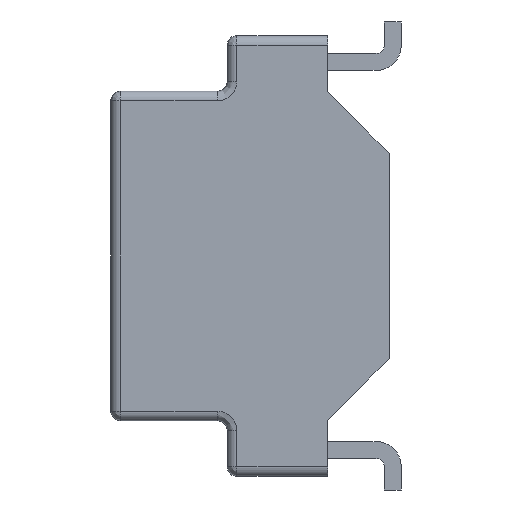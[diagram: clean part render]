
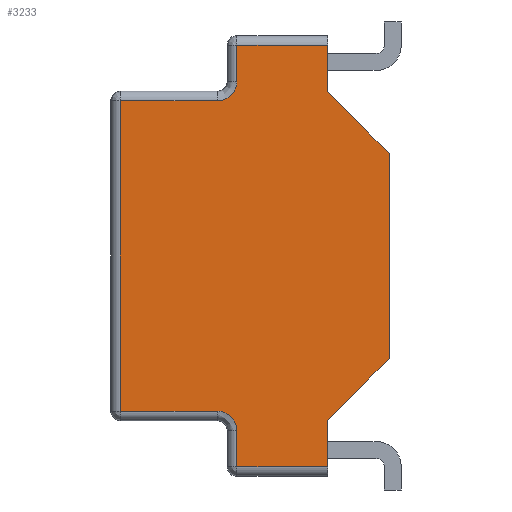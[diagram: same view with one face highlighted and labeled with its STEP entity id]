
A CAD part, left-side view. The second image highlights one B-rep face of the part: STEP entity #3233.
In plain terms, the highlighted planar face has unit normal (-1, 0, 0).
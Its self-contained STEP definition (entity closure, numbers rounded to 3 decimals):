
#59 = ORIENTED_EDGE ( 'NONE', *, *, #4075, .T. ) ;
#107 = CARTESIAN_POINT ( 'NONE',  ( -6.35, 4.191, 4.345 ) ) ;
#153 = EDGE_CURVE ( 'NONE', #388, #3910, #4993, .T. ) ;
#249 = CARTESIAN_POINT ( 'NONE',  ( -6.35, 4.191, 3.2 ) ) ;
#378 =( BOUNDED_CURVE ( )  B_SPLINE_CURVE ( 3, ( #6107, #5396, #505, #6788 ),
 .UNSPECIFIED., .F., .F. ) 
 B_SPLINE_CURVE_WITH_KNOTS ( ( 4, 4 ),
 ( 0., 1. ),
 .UNSPECIFIED. ) 
 CURVE ( )  GEOMETRIC_REPRESENTATION_ITEM ( )  RATIONAL_B_SPLINE_CURVE ( ( 1., 0.805, 0.805, 1. ) ) 
 REPRESENTATION_ITEM ( '' )  );
#388 = VERTEX_POINT ( 'NONE', #2047 ) ;
#455 = EDGE_LOOP ( 'NONE', ( #546, #1878, #5972, #3427, #4307, #6839, #6321, #5641, #4902, #6007, #2955, #3490, #59, #5668 ) ) ;
#505 = CARTESIAN_POINT ( 'NONE',  ( -6.35, 2.036, -3.2 ) ) ;
#546 = ORIENTED_EDGE ( 'NONE', *, *, #3004, .F. ) ;
#591 = CARTESIAN_POINT ( 'NONE',  ( -6.35, 4.191, 4.545 ) ) ;
#605 = LINE ( 'NONE', #249, #4073 ) ;
#718 = DIRECTION ( 'NONE',  ( 0., 0.707, 0.707 ) ) ;
#1027 = CARTESIAN_POINT ( 'NONE',  ( -6.35, -1.27, -2.12 ) ) ;
#1069 = VECTOR ( 'NONE', #3136, 1000. ) ;
#1268 = PLANE ( 'NONE',  #5425 ) ;
#1289 = LINE ( 'NONE', #2060, #8232 ) ;
#1298 = DIRECTION ( 'NONE',  ( 0., 0., -1. ) ) ;
#1324 = CARTESIAN_POINT ( 'NONE',  ( -6.35, 2.27, 3.2 ) ) ;
#1455 = LINE ( 'NONE', #7646, #8606 ) ;
#1590 = VECTOR ( 'NONE', #7663, 1000. ) ;
#1609 = LINE ( 'NONE', #6250, #5288 ) ;
#1750 = FACE_OUTER_BOUND ( 'NONE', #455, .T. ) ;
#1859 =( BOUNDED_CURVE ( )  B_SPLINE_CURVE ( 3, ( #1324, #6187, #6866, #2713 ),
 .UNSPECIFIED., .F., .T. ) 
 B_SPLINE_CURVE_WITH_KNOTS ( ( 4, 4 ),
 ( 0., 1. ),
 .UNSPECIFIED. ) 
 CURVE ( )  GEOMETRIC_REPRESENTATION_ITEM ( )  RATIONAL_B_SPLINE_CURVE ( ( 1., 0.805, 0.805, 1. ) ) 
 REPRESENTATION_ITEM ( '' )  );
#1878 = ORIENTED_EDGE ( 'NONE', *, *, #3780, .F. ) ;
#1934 = EDGE_CURVE ( 'NONE', #388, #3935, #7099, .T. ) ;
#2047 = CARTESIAN_POINT ( 'NONE',  ( -6.35, 0., -3.39 ) ) ;
#2060 = CARTESIAN_POINT ( 'NONE',  ( -6.35, 1.87, 4.545 ) ) ;
#2071 = CARTESIAN_POINT ( 'NONE',  ( -6.35, 0., 4.545 ) ) ;
#2079 = DIRECTION ( 'NONE',  ( 0., 0., 1. ) ) ;
#2178 = EDGE_CURVE ( 'NONE', #4408, #7985, #6586, .T. ) ;
#2182 = VERTEX_POINT ( 'NONE', #4608 ) ;
#2296 = DIRECTION ( 'NONE',  ( 0., 0., -1. ) ) ;
#2612 = VECTOR ( 'NONE', #6422, 1000. ) ;
#2713 = CARTESIAN_POINT ( 'NONE',  ( -6.35, 1.87, 3.6 ) ) ;
#2768 = DIRECTION ( 'NONE',  ( 0., 0., 1. ) ) ;
#2810 = DIRECTION ( 'NONE',  ( 0., 0., -1. ) ) ;
#2822 = CARTESIAN_POINT ( 'NONE',  ( -6.35, -1.39, 2. ) ) ;
#2955 = ORIENTED_EDGE ( 'NONE', *, *, #1934, .T. ) ;
#3004 = EDGE_CURVE ( 'NONE', #4459, #2182, #8142, .T. ) ;
#3136 = DIRECTION ( 'NONE',  ( 0., 1., 0. ) ) ;
#3221 = EDGE_CURVE ( 'NONE', #6276, #4408, #378, .T. ) ;
#3233 = ADVANCED_FACE ( 'NONE', ( #1750 ), #1268, .F. ) ;
#3241 = VERTEX_POINT ( 'NONE', #4750 ) ;
#3427 = ORIENTED_EDGE ( 'NONE', *, *, #4401, .F. ) ;
#3490 = ORIENTED_EDGE ( 'NONE', *, *, #5016, .F. ) ;
#3728 = CARTESIAN_POINT ( 'NONE',  ( -6.35, 2.27, -3.2 ) ) ;
#3733 = CARTESIAN_POINT ( 'NONE',  ( -6.35, 0., -4.345 ) ) ;
#3767 = CARTESIAN_POINT ( 'NONE',  ( -6.35, 0., 3.39 ) ) ;
#3780 = EDGE_CURVE ( 'NONE', #3241, #4459, #1609, .T. ) ;
#3910 = VERTEX_POINT ( 'NONE', #3733 ) ;
#3935 = VERTEX_POINT ( 'NONE', #1027 ) ;
#4073 = VECTOR ( 'NONE', #5860, 1000. ) ;
#4075 = EDGE_CURVE ( 'NONE', #4262, #6745, #6168, .T. ) ;
#4090 = DIRECTION ( 'NONE',  ( 0., 0., 1. ) ) ;
#4262 = VERTEX_POINT ( 'NONE', #8481 ) ;
#4307 = ORIENTED_EDGE ( 'NONE', *, *, #5927, .F. ) ;
#4308 = VECTOR ( 'NONE', #718, 1000. ) ;
#4324 = LINE ( 'NONE', #6602, #1069 ) ;
#4346 = VECTOR ( 'NONE', #2296, 1000. ) ;
#4401 = EDGE_CURVE ( 'NONE', #6858, #8997, #605, .T. ) ;
#4408 = VERTEX_POINT ( 'NONE', #3728 ) ;
#4459 = VERTEX_POINT ( 'NONE', #5191 ) ;
#4608 = CARTESIAN_POINT ( 'NONE',  ( -6.35, 0., 4.345 ) ) ;
#4721 = VECTOR ( 'NONE', #4782, 1000. ) ;
#4737 = VERTEX_POINT ( 'NONE', #6099 ) ;
#4750 = CARTESIAN_POINT ( 'NONE',  ( -6.35, 1.87, 3.6 ) ) ;
#4752 = LINE ( 'NONE', #4820, #8456 ) ;
#4782 = DIRECTION ( 'NONE',  ( 0., 1., 0. ) ) ;
#4792 = EDGE_CURVE ( 'NONE', #8997, #3241, #1859, .T. ) ;
#4820 = CARTESIAN_POINT ( 'NONE',  ( -6.35, 4.27, 4.545 ) ) ;
#4902 = ORIENTED_EDGE ( 'NONE', *, *, #5639, .F. ) ;
#4993 = LINE ( 'NONE', #8565, #4346 ) ;
#5016 = EDGE_CURVE ( 'NONE', #4262, #3935, #1455, .T. ) ;
#5191 = CARTESIAN_POINT ( 'NONE',  ( -6.35, 1.87, 4.345 ) ) ;
#5288 = VECTOR ( 'NONE', #2079, 1000. ) ;
#5396 = CARTESIAN_POINT ( 'NONE',  ( -6.35, 1.87, -3.366 ) ) ;
#5425 = AXIS2_PLACEMENT_3D ( 'NONE', #591, #5458, #1298 ) ;
#5458 = DIRECTION ( 'NONE',  ( 1., 0., 0. ) ) ;
#5576 = CARTESIAN_POINT ( 'NONE',  ( -6.35, 1.87, -3.6 ) ) ;
#5608 = DIRECTION ( 'NONE',  ( 0., 0., -1. ) ) ;
#5639 = EDGE_CURVE ( 'NONE', #3910, #4737, #4324, .T. ) ;
#5641 = ORIENTED_EDGE ( 'NONE', *, *, #5936, .F. ) ;
#5655 = CARTESIAN_POINT ( 'NONE',  ( -6.35, 2.27, 3.2 ) ) ;
#5668 = ORIENTED_EDGE ( 'NONE', *, *, #7152, .F. ) ;
#5860 = DIRECTION ( 'NONE',  ( 0., -1., 0. ) ) ;
#5927 = EDGE_CURVE ( 'NONE', #7985, #6858, #4752, .T. ) ;
#5936 = EDGE_CURVE ( 'NONE', #4737, #6276, #1289, .T. ) ;
#5938 = CARTESIAN_POINT ( 'NONE',  ( -6.35, 4.191, -3.2 ) ) ;
#5972 = ORIENTED_EDGE ( 'NONE', *, *, #4792, .F. ) ;
#6007 = ORIENTED_EDGE ( 'NONE', *, *, #153, .F. ) ;
#6039 = CARTESIAN_POINT ( 'NONE',  ( -6.35, 4.27, 3.2 ) ) ;
#6099 = CARTESIAN_POINT ( 'NONE',  ( -6.35, 1.87, -4.345 ) ) ;
#6107 = CARTESIAN_POINT ( 'NONE',  ( -6.35, 1.87, -3.6 ) ) ;
#6168 = LINE ( 'NONE', #2822, #4308 ) ;
#6187 = CARTESIAN_POINT ( 'NONE',  ( -6.35, 2.036, 3.2 ) ) ;
#6250 = CARTESIAN_POINT ( 'NONE',  ( -6.35, 1.87, 4.545 ) ) ;
#6276 = VERTEX_POINT ( 'NONE', #5576 ) ;
#6321 = ORIENTED_EDGE ( 'NONE', *, *, #3221, .F. ) ;
#6422 = DIRECTION ( 'NONE',  ( 0., -1., 0. ) ) ;
#6586 = LINE ( 'NONE', #5938, #4721 ) ;
#6602 = CARTESIAN_POINT ( 'NONE',  ( -6.35, 4.191, -4.345 ) ) ;
#6737 = CARTESIAN_POINT ( 'NONE',  ( -6.35, 4.27, -3.2 ) ) ;
#6745 = VERTEX_POINT ( 'NONE', #3767 ) ;
#6788 = CARTESIAN_POINT ( 'NONE',  ( -6.35, 2.27, -3.2 ) ) ;
#6839 = ORIENTED_EDGE ( 'NONE', *, *, #2178, .F. ) ;
#6841 = LINE ( 'NONE', #2071, #8696 ) ;
#6858 = VERTEX_POINT ( 'NONE', #6039 ) ;
#6866 = CARTESIAN_POINT ( 'NONE',  ( -6.35, 1.87, 3.366 ) ) ;
#7099 = LINE ( 'NONE', #8489, #1590 ) ;
#7152 = EDGE_CURVE ( 'NONE', #2182, #6745, #6841, .T. ) ;
#7646 = CARTESIAN_POINT ( 'NONE',  ( -6.35, -1.27, 0. ) ) ;
#7663 = DIRECTION ( 'NONE',  ( 0., -0.707, 0.707 ) ) ;
#7985 = VERTEX_POINT ( 'NONE', #6737 ) ;
#8142 = LINE ( 'NONE', #107, #2612 ) ;
#8232 = VECTOR ( 'NONE', #2768, 1000. ) ;
#8456 = VECTOR ( 'NONE', #4090, 1000. ) ;
#8481 = CARTESIAN_POINT ( 'NONE',  ( -6.35, -1.27, 2.12 ) ) ;
#8489 = CARTESIAN_POINT ( 'NONE',  ( -6.35, -1.39, -2. ) ) ;
#8565 = CARTESIAN_POINT ( 'NONE',  ( -6.35, 0., 4.545 ) ) ;
#8606 = VECTOR ( 'NONE', #5608, 1000. ) ;
#8696 = VECTOR ( 'NONE', #2810, 1000. ) ;
#8997 = VERTEX_POINT ( 'NONE', #5655 ) ;
